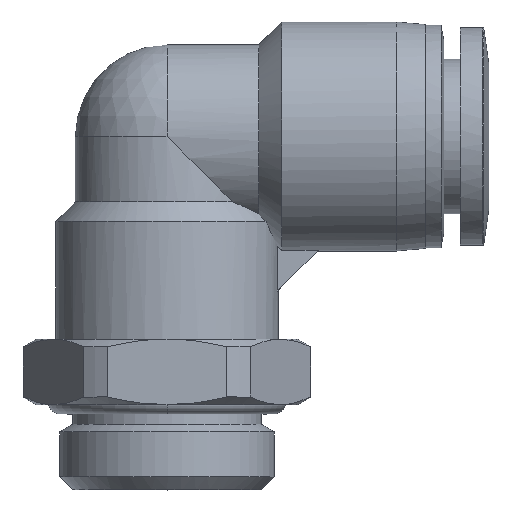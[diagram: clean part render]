
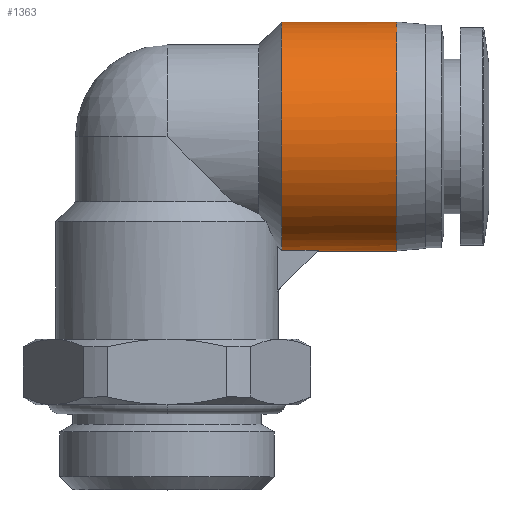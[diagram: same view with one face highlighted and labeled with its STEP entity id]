
A CAD part, top view. The second image highlights one B-rep face of the part: STEP entity #1363.
In plain terms, the highlighted cylindrical face has radius 8.75 mm (diameter 17.5 mm), a partial arc.
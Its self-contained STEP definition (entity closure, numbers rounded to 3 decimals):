
#57 = CARTESIAN_POINT ( 'NONE',  ( 8.75, 7.269, 3.168 ) ) ;
#138 = CARTESIAN_POINT ( 'NONE',  ( 8.75, 6.807, 1. ) ) ;
#278 = VERTEX_POINT ( 'NONE', #138 ) ;
#380 = CARTESIAN_POINT ( 'NONE',  ( 9.686, 6.807, 1. ) ) ;
#418 = CARTESIAN_POINT ( 'NONE',  ( 8.75, 14.899, 8.799 ) ) ;
#472 = B_SPLINE_CURVE_WITH_KNOTS ( 'NONE', 3,
 ( #4626, #723, #57, #3652, #1504, #2942, #4406, #1479, #418, #3628, #3699, #3323, #819, #3247, #1175, #794, #2900, #3274 ),
 .UNSPECIFIED., .F., .F.,
 ( 4, 2, 2, 2, 2, 2, 2, 2, 4 ),
 ( 0., 0.063, 0.125, 0.188, 0.25, 0.313, 0.375, 0.438, 0.5 ),
 .UNSPECIFIED. ) ;
#486 = ORIENTED_EDGE ( 'NONE', *, *, #1508, .T. ) ;
#617 = CARTESIAN_POINT ( 'NONE',  ( 17.55, 14.355, 8.75 ) ) ;
#723 = CARTESIAN_POINT ( 'NONE',  ( 8.75, 6.933, 2.096 ) ) ;
#724 = EDGE_CURVE ( 'NONE', #2478, #3043, #1474, .T. ) ;
#735 = CARTESIAN_POINT ( 'NONE',  ( 11.557, 6.807, 1. ) ) ;
#794 = CARTESIAN_POINT ( 'NONE',  ( 8.75, 24.039, 2.207 ) ) ;
#819 = CARTESIAN_POINT ( 'NONE',  ( 8.75, 21.104, 6.81 ) ) ;
#979 = CARTESIAN_POINT ( 'NONE',  ( 17.55, 17.79, 8.522 ) ) ;
#1057 = CARTESIAN_POINT ( 'NONE',  ( 13.15, 15.5, 0. ) ) ;
#1089 = VERTEX_POINT ( 'NONE', #1540 ) ;
#1175 = CARTESIAN_POINT ( 'NONE',  ( 8.75, 23.223, 4.258 ) ) ;
#1222 = CARTESIAN_POINT ( 'NONE',  ( 8.75, 24.25, 0. ) ) ;
#1344 = VERTEX_POINT ( 'NONE', #3258 ) ;
#1363 = ADVANCED_FACE ( 'NONE', ( #1764 ), #3211, .T. ) ;
#1404 = DIRECTION ( 'NONE',  ( 1., 0., 0. ) ) ;
#1474 = LINE ( 'NONE', #2870, #1536 ) ;
#1479 = CARTESIAN_POINT ( 'NONE',  ( 8.75, 13.785, 8.651 ) ) ;
#1487 = DIRECTION ( 'NONE',  ( 1., 0., 0. ) ) ;
#1504 = CARTESIAN_POINT ( 'NONE',  ( 8.75, 9.022, 5.985 ) ) ;
#1508 = EDGE_CURVE ( 'NONE', #4562, #1344, #3009, .T. ) ;
#1536 = VECTOR ( 'NONE', #1404, 1000. ) ;
#1540 = CARTESIAN_POINT ( 'NONE',  ( 17.55, 6.75, 0. ) ) ;
#1591 = CARTESIAN_POINT ( 'NONE',  ( 11.557, 6.807, 1. ) ) ;
#1648 = DIRECTION ( 'NONE',  ( 1., 0., 0. ) ) ;
#1707 = CARTESIAN_POINT ( 'NONE',  ( 17.55, 20.877, 6.997 ) ) ;
#1764 = FACE_OUTER_BOUND ( 'NONE', #2736, .T. ) ;
#1775 = EDGE_CURVE ( 'NONE', #4562, #278, #4040, .T. ) ;
#1812 = CARTESIAN_POINT ( 'NONE',  ( 8.75, 6.807, 1. ) ) ;
#1843 = EDGE_CURVE ( 'NONE', #1344, #1089, #2317, .T. ) ;
#2067 = CARTESIAN_POINT ( 'NONE',  ( 17.55, 6.978, 2.29 ) ) ;
#2115 = ORIENTED_EDGE ( 'NONE', *, *, #3180, .T. ) ;
#2317 = LINE ( 'NONE', #4124, #2523 ) ;
#2397 = CARTESIAN_POINT ( 'NONE',  ( 17.55, 16.645, 8.75 ) ) ;
#2422 = CARTESIAN_POINT ( 'NONE',  ( 17.55, 24.25, 1.145 ) ) ;
#2478 = VERTEX_POINT ( 'NONE', #1222 ) ;
#2523 = VECTOR ( 'NONE', #1648, 1000. ) ;
#2736 = EDGE_LOOP ( 'NONE', ( #486, #3707, #2115, #3720, #2818, #2890 ) ) ;
#2782 = CARTESIAN_POINT ( 'NONE',  ( 17.55, 8.503, 5.377 ) ) ;
#2818 = ORIENTED_EDGE ( 'NONE', *, *, #3689, .F. ) ;
#2845 = CARTESIAN_POINT ( 'NONE',  ( 11.5, 6.75, 0. ) ) ;
#2870 = CARTESIAN_POINT ( 'NONE',  ( 13.15, 24.25, 0. ) ) ;
#2890 = ORIENTED_EDGE ( 'NONE', *, *, #1775, .F. ) ;
#2900 = CARTESIAN_POINT ( 'NONE',  ( 8.75, 24.25, 1.104 ) ) ;
#2910 = B_SPLINE_CURVE_WITH_KNOTS ( 'NONE', 3,
 ( #3133, #3173, #2067, #4578, #2782, #4195, #4240, #4618, #617, #2397, #979, #4262, #1707, #3480, #3505, #4217, #2422, #3864 ),
 .UNSPECIFIED., .F., .F.,
 ( 4, 2, 2, 2, 2, 2, 2, 2, 4 ),
 ( 0.5, 0.563, 0.625, 0.688, 0.75, 0.813, 0.875, 0.938, 1. ),
 .UNSPECIFIED. ) ;
#2929 = DIRECTION ( 'NONE',  ( 0., 1., 0. ) ) ;
#2942 = CARTESIAN_POINT ( 'NONE',  ( 8.75, 10.711, 7.406 ) ) ;
#3009 = B_SPLINE_CURVE_WITH_KNOTS ( 'NONE', 3,
 ( #1591, #3036, #3153, #2845 ),
 .UNSPECIFIED., .F., .F.,
 ( 4, 4 ),
 ( 0., 0.5 ),
 .UNSPECIFIED. ) ;
#3036 = CARTESIAN_POINT ( 'NONE',  ( 11.519, 6.769, 0.668 ) ) ;
#3043 = VERTEX_POINT ( 'NONE', #3320 ) ;
#3133 = CARTESIAN_POINT ( 'NONE',  ( 17.55, 6.75, 0. ) ) ;
#3153 = CARTESIAN_POINT ( 'NONE',  ( 11.5, 6.75, 0.334 ) ) ;
#3169 = CARTESIAN_POINT ( 'NONE',  ( 11.557, 6.807, 1. ) ) ;
#3173 = CARTESIAN_POINT ( 'NONE',  ( 17.55, 6.75, 1.145 ) ) ;
#3180 = EDGE_CURVE ( 'NONE', #1089, #3043, #2910, .T. ) ;
#3211 = CYLINDRICAL_SURFACE ( 'NONE', #3277, 8.75 ) ;
#3247 = CARTESIAN_POINT ( 'NONE',  ( 8.75, 22.619, 5.205 ) ) ;
#3258 = CARTESIAN_POINT ( 'NONE',  ( 11.5, 6.75, 0. ) ) ;
#3274 = CARTESIAN_POINT ( 'NONE',  ( 8.75, 24.25, 0. ) ) ;
#3277 = AXIS2_PLACEMENT_3D ( 'NONE', #1057, #1487, #2929 ) ;
#3320 = CARTESIAN_POINT ( 'NONE',  ( 17.55, 24.25, 0. ) ) ;
#3323 = CARTESIAN_POINT ( 'NONE',  ( 8.75, 20.193, 7.467 ) ) ;
#3480 = CARTESIAN_POINT ( 'NONE',  ( 17.55, 22.497, 5.377 ) ) ;
#3505 = CARTESIAN_POINT ( 'NONE',  ( 17.55, 23.146, 4.407 ) ) ;
#3628 = CARTESIAN_POINT ( 'NONE',  ( 8.75, 17.103, 8.672 ) ) ;
#3652 = CARTESIAN_POINT ( 'NONE',  ( 8.75, 8.314, 5.113 ) ) ;
#3689 = EDGE_CURVE ( 'NONE', #278, #2478, #472, .T. ) ;
#3699 = CARTESIAN_POINT ( 'NONE',  ( 8.75, 18.192, 8.398 ) ) ;
#3707 = ORIENTED_EDGE ( 'NONE', *, *, #1843, .T. ) ;
#3720 = ORIENTED_EDGE ( 'NONE', *, *, #724, .F. ) ;
#3864 = CARTESIAN_POINT ( 'NONE',  ( 17.55, 24.25, 0. ) ) ;
#4026 = CARTESIAN_POINT ( 'NONE',  ( 10.622, 6.807, 1. ) ) ;
#4040 = B_SPLINE_CURVE_WITH_KNOTS ( 'NONE', 3,
 ( #735, #4026, #380, #1812 ),
 .UNSPECIFIED., .F., .F.,
 ( 4, 4 ),
 ( 0., 1. ),
 .UNSPECIFIED. ) ;
#4124 = CARTESIAN_POINT ( 'NONE',  ( 13.15, 6.75, 0. ) ) ;
#4195 = CARTESIAN_POINT ( 'NONE',  ( 17.55, 10.123, 6.997 ) ) ;
#4217 = CARTESIAN_POINT ( 'NONE',  ( 17.55, 24.022, 2.29 ) ) ;
#4240 = CARTESIAN_POINT ( 'NONE',  ( 17.55, 11.093, 7.646 ) ) ;
#4262 = CARTESIAN_POINT ( 'NONE',  ( 17.55, 19.907, 7.646 ) ) ;
#4406 = CARTESIAN_POINT ( 'NONE',  ( 8.75, 11.691, 7.954 ) ) ;
#4562 = VERTEX_POINT ( 'NONE', #3169 ) ;
#4578 = CARTESIAN_POINT ( 'NONE',  ( 17.55, 7.854, 4.407 ) ) ;
#4618 = CARTESIAN_POINT ( 'NONE',  ( 17.55, 13.21, 8.522 ) ) ;
#4626 = CARTESIAN_POINT ( 'NONE',  ( 8.75, 6.807, 1. ) ) ;
